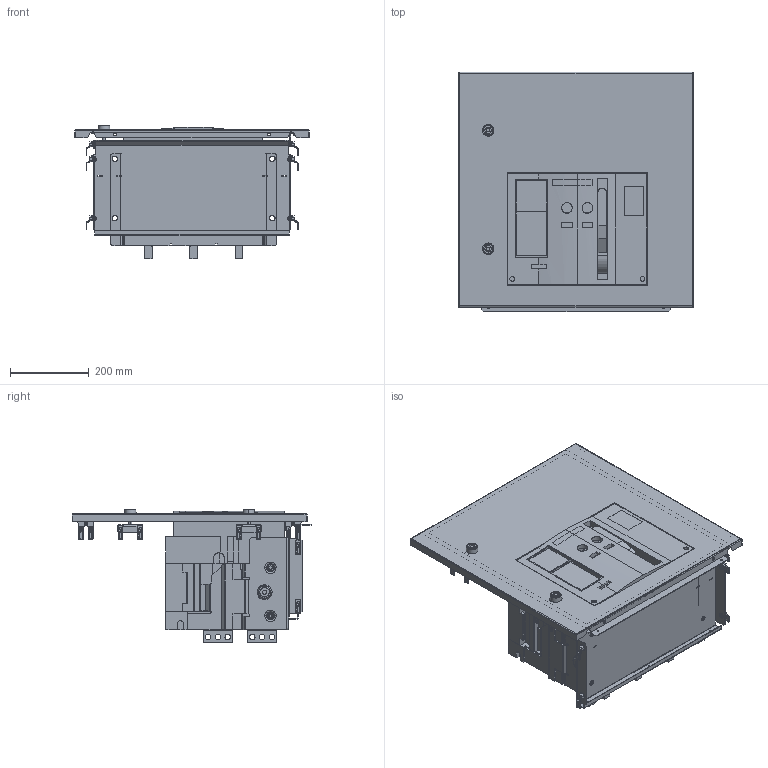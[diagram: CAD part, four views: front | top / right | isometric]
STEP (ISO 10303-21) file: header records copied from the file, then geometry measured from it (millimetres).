
FILE_DESCRIPTION(('CAx-IF Rec.Pracs.---Model Styling and Organization---1.2---2011-12-15','CAx-IF Rec.Pracs.---Geometric and Assembly Validation Properties---4.1---2014-06-16','CAx-IF Rec.Pracs.---PMI Polyline Presentation---2.0---2013-05-24'),'2;1');
FILE_NAME('R5PKEB7V61125.stp','2021-07-29T02:23:12+03:00',(''),(''),'STEP Interface 4.4 by CT CoreTechnologie','3D_Evolution4.4 by CT CoreTechnologie','');
FILE_SCHEMA(('AUTOMOTIVE_DESIGN { 1 0 10303 214 1 1 1 1 }'));
Length unit declared in the file: millimetre
Products named in the file (1): R5PKEB7V61125
Bounding box: 594 x 607.5 x 339 mm (x, y, z)
Surface area: 3241342.2 mm2 (no closed solid volume)
Topology: 0 solids, 82 shells, 4362 faces, 11905 edges, 7737 vertices
Faces by surface type: plane 2443, cylinder 1410, bspline 509
Entity records: 150701 total; most frequent: CARTESIAN_POINT 39420, ORIENTED_EDGE 23668, DIRECTION 22647, EDGE_CURVE 11840, VECTOR 8099, LINE 8099, VERTEX_POINT 7749, AXIS2_PLACEMENT_3D 7274
